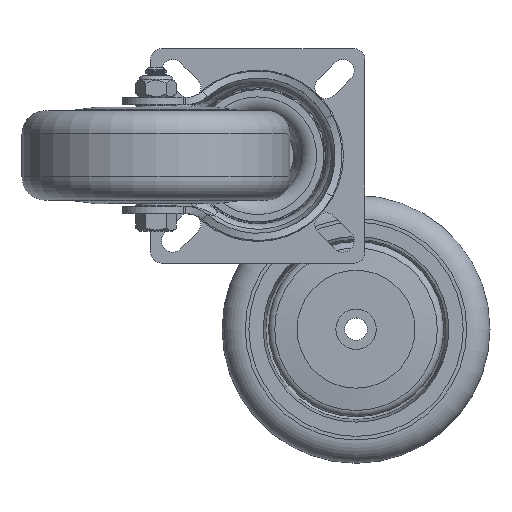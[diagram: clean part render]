
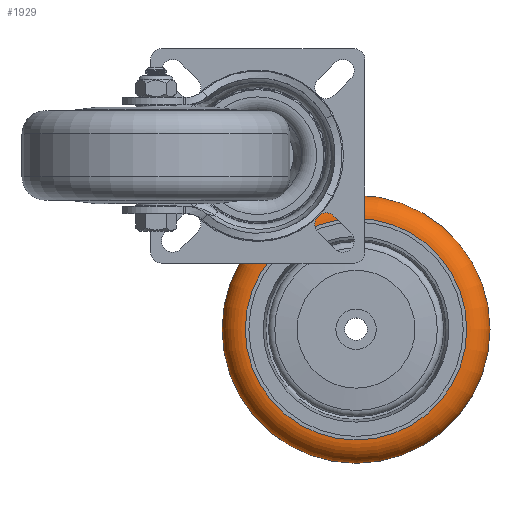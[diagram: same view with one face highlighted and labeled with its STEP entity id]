
A CAD part, top view. The second image highlights one B-rep face of the part: STEP entity #1929.
In plain terms, the highlighted toroidal (fillet/blend) face has major radius 31 mm and minor radius 6.5 mm.
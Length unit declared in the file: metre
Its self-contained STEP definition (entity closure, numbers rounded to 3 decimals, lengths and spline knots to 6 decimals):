
#1929=ADVANCED_FACE('',(#4515,#4516),#4517,.T.);
#4515=FACE_OUTER_BOUND('',#9777,.T.);
#4516=FACE_OUTER_BOUND('',#9778,.T.);
#4517=TOROIDAL_SURFACE('',#9779,0.031,0.0065);
#9777=EDGE_LOOP('',(#19596));
#9778=EDGE_LOOP('',(#19597));
#9779=AXIS2_PLACEMENT_3D('',#19598,#19599,#19600);
#19596=ORIENTED_EDGE('',*,*,#23152,.T.);
#19597=ORIENTED_EDGE('',*,*,#23153,.T.);
#19598=CARTESIAN_POINT('',(-0.006,0.0,0.0));
#19599=DIRECTION('',(1.0,0.0,-0.0));
#19600=DIRECTION('',(0.0,0.0,1.0));
#23152=EDGE_CURVE('',#28484,#28484,#28485,.T.);
#23153=EDGE_CURVE('',#28486,#28486,#28487,.T.);
#28484=VERTEX_POINT('',#40014);
#28485=CIRCLE('',#40015,0.0375);
#28486=VERTEX_POINT('',#40016);
#28487=CIRCLE('',#40017,0.031);
#40014=CARTESIAN_POINT('',(-0.006,0.0,-0.0375));
#40015=AXIS2_PLACEMENT_3D('',#43781,#43782,#43783);
#40016=CARTESIAN_POINT('',(-0.0125,0.0,-0.031));
#40017=AXIS2_PLACEMENT_3D('',#43784,#43785,#43786);
#43781=CARTESIAN_POINT('',(-0.006,0.0,0.0));
#43782=DIRECTION('',(-1.0,0.0,0.0));
#43783=DIRECTION('',(0.0,0.0,-1.0));
#43784=CARTESIAN_POINT('',(-0.0125,0.0,0.0));
#43785=DIRECTION('',(1.0,0.0,0.0));
#43786=DIRECTION('',(0.0,0.0,-1.0));
